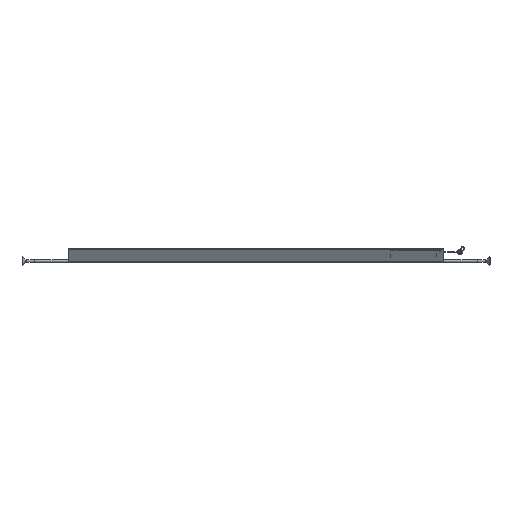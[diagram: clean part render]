
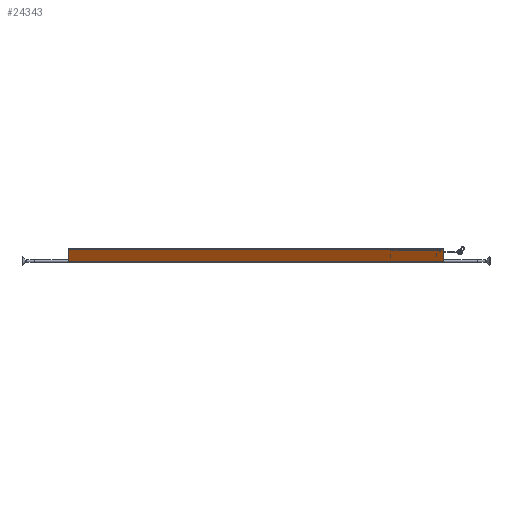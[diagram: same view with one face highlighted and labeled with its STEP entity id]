
A CAD part, left-side view. The second image highlights one B-rep face of the part: STEP entity #24343.
In plain terms, the highlighted planar face has unit normal (-0.862, 0, -0.507).
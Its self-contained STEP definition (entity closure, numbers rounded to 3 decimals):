
#508 = CARTESIAN_POINT ( 'NONE',  ( -11.632, 1315., -6.852 ) ) ;
#1344 = VERTEX_POINT ( 'NONE', #33080 ) ;
#3293 = VERTEX_POINT ( 'NONE', #35122 ) ;
#3593 = VECTOR ( 'NONE', #36731, 1000. ) ;
#3802 = VECTOR ( 'NONE', #37744, 1000. ) ;
#6098 = DIRECTION ( 'NONE',  ( 0., -1., 0. ) ) ;
#7043 = ORIENTED_EDGE ( 'NONE', *, *, #12671, .F. ) ;
#7185 = ORIENTED_EDGE ( 'NONE', *, *, #36541, .T. ) ;
#8032 = DIRECTION ( 'NONE',  ( 0.862, 0., 0.508 ) ) ;
#8721 = DIRECTION ( 'NONE',  ( 0.508, 0., -0.862 ) ) ;
#12238 = VECTOR ( 'NONE', #6098, 1000. ) ;
#12430 = PLANE ( 'NONE',  #35676 ) ;
#12671 = EDGE_CURVE ( 'NONE', #1344, #35599, #27046, .T. ) ;
#14585 = ORIENTED_EDGE ( 'NONE', *, *, #42101, .T. ) ;
#19570 = LINE ( 'NONE', #37915, #12238 ) ;
#19999 = VERTEX_POINT ( 'NONE', #30051 ) ;
#20699 = LINE ( 'NONE', #35127, #22500 ) ;
#22500 = VECTOR ( 'NONE', #45334, 1000. ) ;
#24343 = ADVANCED_FACE ( 'NONE', ( #40522 ), #12430, .F. ) ;
#24623 = CARTESIAN_POINT ( 'NONE',  ( -63.956, -1315., 81.977 ) ) ;
#25556 = LINE ( 'NONE', #508, #3593 ) ;
#27046 = LINE ( 'NONE', #34722, #3802 ) ;
#29146 = EDGE_CURVE ( 'NONE', #3293, #1344, #25556, .T. ) ;
#29501 = EDGE_LOOP ( 'NONE', ( #7185, #7043, #37515, #14585 ) ) ;
#30051 = CARTESIAN_POINT ( 'NONE',  ( -11.632, -1315., -6.852 ) ) ;
#33080 = CARTESIAN_POINT ( 'NONE',  ( -63.956, 1315., 81.977 ) ) ;
#34722 = CARTESIAN_POINT ( 'NONE',  ( -63.956, 1315., 81.977 ) ) ;
#35122 = CARTESIAN_POINT ( 'NONE',  ( -11.632, 1315., -6.852 ) ) ;
#35127 = CARTESIAN_POINT ( 'NONE',  ( -11.632, -1315., -6.852 ) ) ;
#35599 = VERTEX_POINT ( 'NONE', #24623 ) ;
#35676 = AXIS2_PLACEMENT_3D ( 'NONE', #44237, #8032, #8721 ) ;
#36541 = EDGE_CURVE ( 'NONE', #19999, #35599, #20699, .T. ) ;
#36731 = DIRECTION ( 'NONE',  ( -0.508, 0., 0.862 ) ) ;
#37515 = ORIENTED_EDGE ( 'NONE', *, *, #29146, .F. ) ;
#37744 = DIRECTION ( 'NONE',  ( 0., -1., 0. ) ) ;
#37915 = CARTESIAN_POINT ( 'NONE',  ( -11.632, 1315., -6.852 ) ) ;
#40522 = FACE_OUTER_BOUND ( 'NONE', #29501, .T. ) ;
#42101 = EDGE_CURVE ( 'NONE', #3293, #19999, #19570, .T. ) ;
#44237 = CARTESIAN_POINT ( 'NONE',  ( -11.632, 1315., -6.852 ) ) ;
#45334 = DIRECTION ( 'NONE',  ( -0.508, 0., 0.862 ) ) ;
